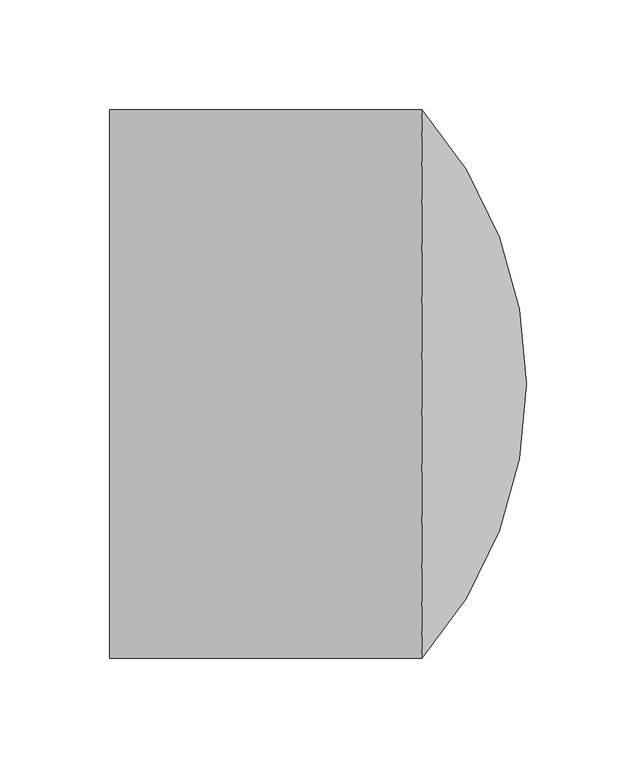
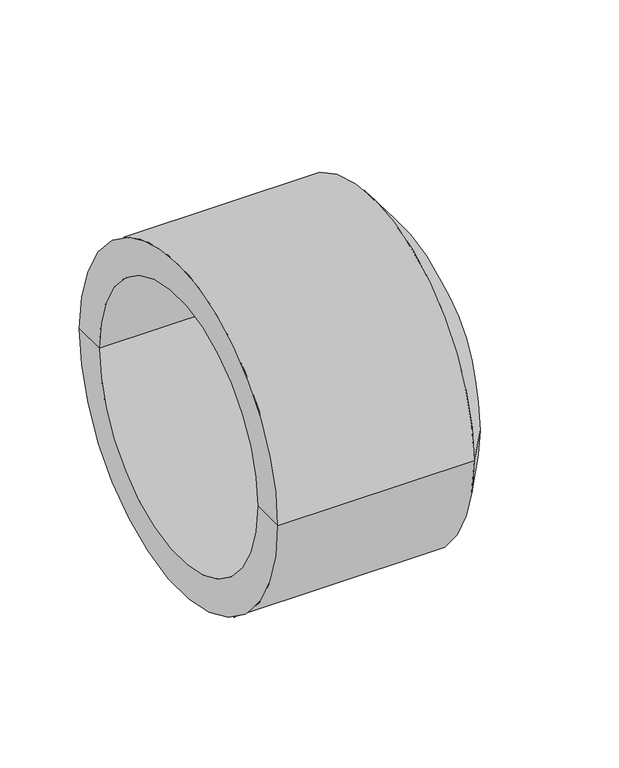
"""IFC4 building model written with IfcOpenShell, lengths in millimetres: pipe fitting geometry, EGB_VASEN_ PPR_Tapon a tope WXB700 : Tapón a tope WXRB700."""

from ifc_helpers import new_model, si_unit, point, frame, origin, place, context, project, spatial, polyline, circle_curve, ellipse_curve, trimmed, source, transform, mapped, element, save
from ifc_brep_helpers import plane_surface, cylinder_surface, revolved_surface, advanced_brep


def pipe_fitting_798a9fc2(model_context):
    return source(origin(), model_context, "Body", "AdvancedBrep", [
        advanced_brep(
        [(0.0, -125.0, 0.0), (0.0, 125.0, 0.0), (142.5, 125.0, 0.0), (142.5, -125.0, 0.0), (0.0, -100.0, 0.0), (0.0, 100.0, 0.0), (130.7920966, -100.0, 0.0), (130.7920966, 100.0, 0.0), (165.0, 0.0, 0.0), (190.0, 0.0, 0.0)],
        [
            (0, 1, circle_curve(frame((0.0, 0.0, 0.0), z_axis=(1.0, 0.0, 0.0), x_axis=(0.0, 1.0, 0.0)), 125.0)),
            (1, 2),
            (2, 3, circle_curve(frame((142.5, 0.0, 0.0), z_axis=(-1.0, 0.0, 0.0), x_axis=(0.0, 1.0, 0.0)), 125.0)),
            (3, 0),
            (1, 0, circle_curve(frame((0.0, 0.0, 0.0), z_axis=(1.0, 0.0, 0.0), x_axis=(0.0, 1.0, 0.0)), 125.0)),
            (3, 2, circle_curve(frame((142.5, 0.0, 0.0), z_axis=(-1.0, 0.0, 0.0), x_axis=(0.0, 1.0, 0.0)), 125.0)),
            (4, 5, circle_curve(frame((0.0, 0.0, 0.0), z_axis=(1.0, 0.0, 0.0), x_axis=(0.0, 1.0, 0.0)), 100.0)),
            (5, 1),
            (0, 4),
            (5, 4, circle_curve(frame((0.0, 0.0, 0.0), z_axis=(1.0, 0.0, 0.0), x_axis=(0.0, 1.0, 0.0)), 100.0)),
            (6, 7, circle_curve(frame((130.7920966, 0.0, 0.0), z_axis=(1.0, 0.0, 0.0), x_axis=(0.0, 1.0, 0.0)), 100.0)),
            (7, 5),
            (4, 6),
            (7, 6, circle_curve(frame((130.7920966, 0.0, 0.0), z_axis=(1.0, 0.0, 0.0), x_axis=(0.0, 1.0, 0.0)), 100.0)),
            (8, 7, circle_curve(frame((2.1851414, 0.1553537, 0.0), z_axis=(0.0, 0.0, 1.0), x_axis=(1.0, 0.0, 0.0)), 162.8149327)),
            (6, 8, circle_curve(frame((2.1851414, -0.1553537, 0.0), z_axis=(0.0, 0.0, 1.0), x_axis=(1.0, 0.0, 0.0)), 162.8149327)),
            (2, 9, circle_curve(frame((2.1851414, 0.1553537, 0.0), z_axis=(0.0, 0.0, -1.0), x_axis=(1.0, 0.0, 0.0)), 187.8149228)),
            (9, 3, circle_curve(frame((2.1851414, -0.1553537, 0.0), z_axis=(0.0, 0.0, -1.0), x_axis=(1.0, 0.0, 0.0)), 187.8149228)),
        ],
        [
            cylinder_surface(frame((8.258615, 0.0, 0.0), z_axis=(-1.0, 0.0, 0.0), x_axis=(0.0, 1.0, 0.0)), 125.0),
            plane_surface(frame((0.0, 0.0, 0.0), z_axis=(-1.0, 0.0, 0.0), x_axis=(0.0, 1.0, 0.0))),
            revolved_surface(polyline([(0.0, 100.0, 0.0), (130.7920966, 100.0, 0.0)]), (8.258615, 0.0, 0.0), (-1.0, 0.0, 0.0)),
            revolved_surface(trimmed(ellipse_curve(frame((2.1851414, 0.1553537, 0.0), z_axis=(0.0, 0.0, -1.0), x_axis=(1.0, 0.0, 0.0)), 162.8149327, 162.8149327), [point((130.7920966, 100.0, 0.0))], [point((165.0, 0.0, 0.0))], True, "CARTESIAN"), (8.258615, 0.0, 0.0), (-1.0, 0.0, 0.0)),
            revolved_surface(trimmed(ellipse_curve(frame((2.1851414, 0.1553537, 0.0), z_axis=(0.0, 0.0, 1.0), x_axis=(1.0, 0.0, 0.0)), 187.8149228, 187.8149228), [point((190.0, 0.0, 0.0))], [point((142.5, 125.0, 0.0))], True, "CARTESIAN"), (8.258615, 0.0, 0.0), (-1.0, 0.0, 0.0)),
        ],
        [
            (0, [[1, 2, 3, 4]]),
            (0, [[5, -4, 6, -2]]),
            (1, [[7, 8, -1, 9]]),
            (1, [[10, -9, -5, -8]]),
            (2, [[11, 12, -7, 13]]),
            (2, [[14, -13, -10, -12]]),
            (3, [[15, -11, 16]]),
            (3, [[-16, -14, -15]]),
            (4, [[-3, 17, 18]]),
            (4, [[-6, -18, -17]]),
        ],
    ),
    ])


if __name__ == "__main__":
    model = new_model("IFC4")
    model_context = context("Model", 3, world=origin())
    ifc_project = project(units=[si_unit("LENGTHUNIT", "METRE", prefix="MILLI")], contexts=[model_context])
    site = spatial("IfcSite", under=ifc_project)
    building = spatial("IfcBuilding", under=site)
    placement = place(None, origin())
    pipe_fitting_shape = pipe_fitting_798a9fc2(model_context)
    element("IfcPipeFitting", 1, ObjectType="EGB_VASEN_ PPR_Tapon a tope WXB700 : Tapón a tope WXRB700", at=placement, inside=building, context=model_context, shape_type="MappedRepresentation", body=[
        mapped(pipe_fitting_shape, transform((0.0, 0.0, 0.0), x_axis=(1.0, 0.0, 0.0), y_axis=(0.0, 1.0, 0.0), z_axis=(0.0, 0.0, 1.0))),
    ])
    save(model, "model.ifc")
